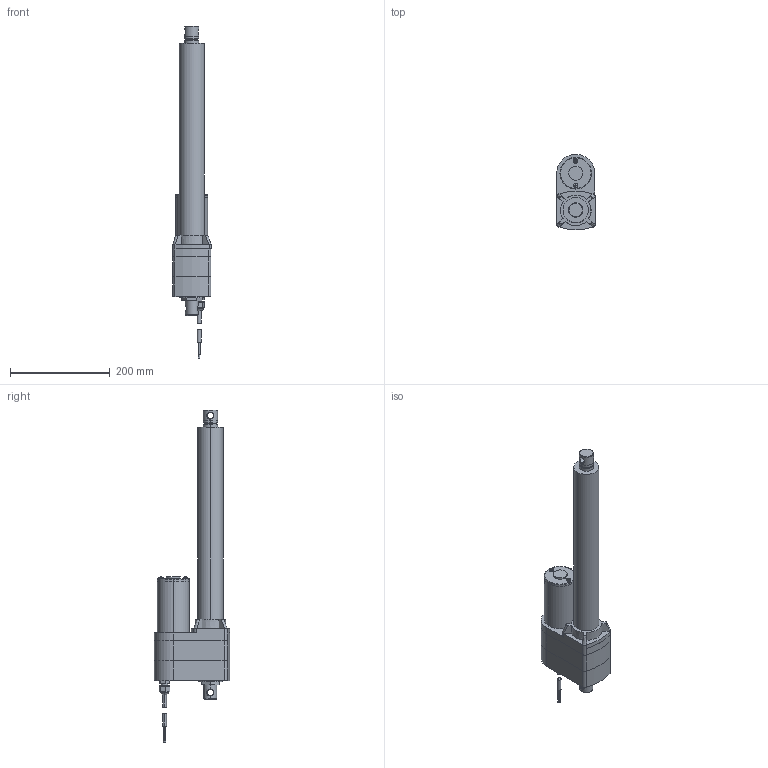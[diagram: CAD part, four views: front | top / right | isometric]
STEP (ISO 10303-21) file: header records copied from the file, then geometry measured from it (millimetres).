
FILE_DESCRIPTION (( 'STEP AP203' ), '1' );
FILE_NAME ('LA10_BALL_12_POT.step', '2021-02-24T15:36:00', ( '' ), ( '' ), 'SwSTEP 2.0', 'SolidWorks 2017', '' );
FILE_SCHEMA (( 'CONFIG_CONTROL_DESIGN' ));
Length unit declared in the file: millimetre
Products named in the file (1): LA10_BALL_12_POT
Bounding box: 77.22 x 151.29 x 666.45 mm (x, y, z)
Volume: 2319273.8 mm3; surface area: 224867.1 mm2
Topology: 14 solids, 14 shells, 345 faces, 740 edges, 460 vertices
Faces by surface type: plane 162, cylinder 115, cone 24, bspline 22, torus 18, sphere 4
Entity records: 11368 total; most frequent: CARTESIAN_POINT 3734, DIRECTION 1643, ORIENTED_EDGE 1480, EDGE_CURVE 740, AXIS2_PLACEMENT_3D 649, VERTEX_POINT 460, EDGE_LOOP 390, FACE_OUTER_BOUND 345
